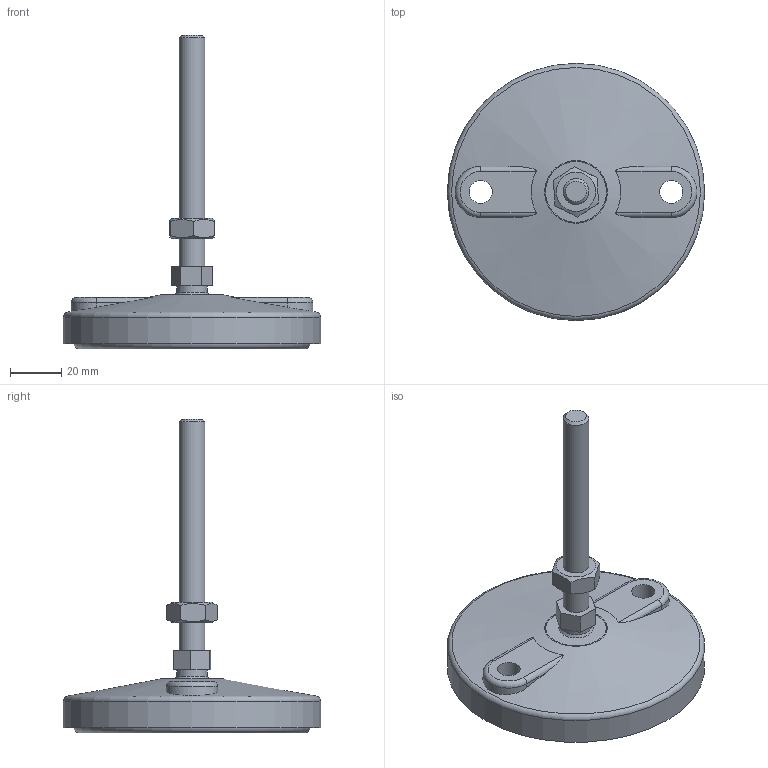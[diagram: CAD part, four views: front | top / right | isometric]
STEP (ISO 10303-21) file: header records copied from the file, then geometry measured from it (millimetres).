
FILE_DESCRIPTION((''),'2;1');
FILE_NAME('C:\Documents and Settings\Administrator\My Documents\Andys Backup Data\ANDY''S INVENTOR\INVENTOR LIBRARIES\MINITEC INVENTOR LIBRARIES\FEET WHEELS FLOOR FASTENING SUPPORTS\A PACKED FILES\STEP FILES\21.1846 LEVELING FOOT M10 WITH BORES.stp','2010-06-28T08:56:12',('Administrator'),(''),'Autodesk Inventor 2009','Autodesk Inventor 2009','');
FILE_SCHEMA(('CONFIG_CONTROL_DESIGN'));
Length unit declared in the file: millimetre
Products named in the file (5): 21.1846 LEVELING FOOT M10 WITH BORES; ANTI-SKID PAD 100mm WITH BORES; PAD 100mm GRAY PLASTIC WITH BORES; 21.1846 THREADED STUD 10mm; M10 HEX NUT DIN 934
Assembly tree (4 placements, depth 2):
  21.1846 LEVELING FOOT M10 WITH BORES
    ANTI-SKID PAD 100mm WITH BORES
    PAD 100mm GRAY PLASTIC WITH BORES
    21.1846 THREADED STUD 10mm
    M10 HEX NUT DIN 934
Bounding box: 100 x 100 x 122 mm (x, y, z)
Volume: 142904.3 mm3; surface area: 42303.4 mm2
Topology: 4 solids, 4 shells, 61 faces, 129 edges, 82 vertices
Faces by surface type: plane 30, cylinder 17, cone 6, torus 5, bspline 2, sphere 1
Full cylindrical faces by diameter (mm): 9 x2, 9.5 x2, 10 x1, 12 x1, 15 x2, 92 x2, 100 x1
Entity records: 1859 total; most frequent: CARTESIAN_POINT 547, DIRECTION 260, ORIENTED_EDGE 204, AXIS2_PLACEMENT_3D 112, EDGE_CURVE 102, EDGE_LOOP 100, VERTEX_POINT 78, FACE_OUTER_BOUND 61
